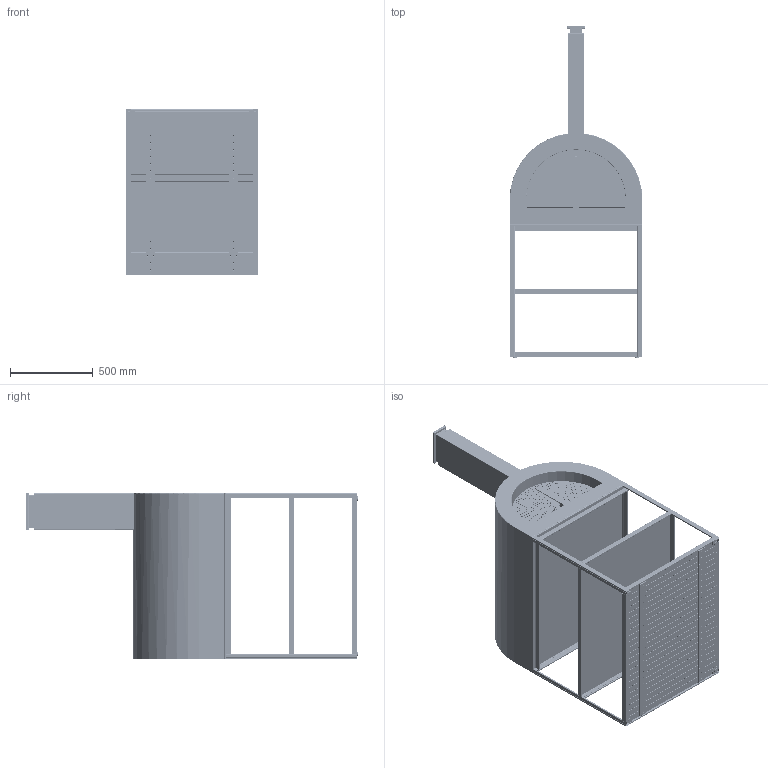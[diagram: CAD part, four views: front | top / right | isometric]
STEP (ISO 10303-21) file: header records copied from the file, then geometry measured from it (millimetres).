
FILE_DESCRIPTION(/* description */ (''),/* implementation_level */ '2;1');
FILE_NAME(/* name */ 'C:\Vault_WF\Designs\# ARKITEKT FILER\Pizza Owen\Pizza Oven SS.stp',/* time_stamp */ '2022-10-26T11:15:36+02:00',/* author */ ('TorbjörnMalm'),/* organization */ (''),/* preprocessor_version */ 'ST-DEVELOPER v18.1',/* originating_system */ 'Autodesk Inventor 2021',/* authorisation */ '');
FILE_SCHEMA (('CONFIG_CONTROL_DESIGN'));
Length unit declared in the file: millimetre
Products named in the file (48): Pizza Oven; Pizza Oven_1; 100287; 101398; 101397; Frame 1623658007388; Skeleton 1623658007389; CSN EN 10305-5 - 30 x 10 x 1,25  - 790; CSN EN 10305-5 - 30 x 10 x 1,25  - 790_1; CSN EN 10305-5 - 30 x 10 x 1,25  - 740; CSN EN 10305-5 - 30 x 10 x 1,25  - 740_1; CSN EN 10305-5 - 30 x 10 x 1,25  - 790_2; CSN EN 10305-5 - 30 x 10 x 1,25  - 740_2; CSN EN 10305-5 - 30 x 10 x 1,25  - 740_3; CSN EN 10305-5 - 30 x 10 x 1,25  - 790_3; CSN EN 10305-5 - 30 x 10 x 1,25  - 1000; CSN EN 10305-5 - 30 x 10 x 1,25  - 800; CSN EN 10305-5 - 30 x 10 x 1,25  - 1000_1; CSN EN 10305-5 - 30 x 10 x 1,25  - 800_1; CSN EN 10305-5 - 20 x 10 x 1,25  - 790; CSN EN 10305-5 - 30 x 10 x 1,25  - 940; CSN EN 10305-5 - 30 x 10 x 1,25  - 940_1; CSN EN 10305-5 - 20 x 10 x 1,25  - 790_1; CSN EN 10305-5 - 20 x 10 x 1,25  - 790_2; CSN EN 10305-5 - 30 x 10 x 1,25  - 940_2; CSN EN 10305-5 - 30 x 10 x 1,25  - 940_3; CSN EN 10305-5 - 20 x 10 x 1,25  - 790_3; CSN EN 10305-5 - 30 x 10 x 1,25  - 940_4; CSN EN 10305-5 - 30 x 10 x 1,25  - 780; CSN EN 10305-5 - 30 x 10 x 1,25  - 940_5; CSN EN 10305-5 - 30 x 10 x 1,25  - 780_1; 101206; 100131; 101256; 100420; 100422; 100422_1; 100422_2; 100297; 101212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
Assembly tree (75 placements, depth 5):
  Pizza Oven
    Pizza Oven_1
    100287  x4
    101398
      101397
        Frame 1623658007388
          Skeleton 1623658007389
          CSN EN 10305-5 - 30 x 10 x 1,25  - 790
          CSN EN 10305-5 - 30 x 10 x 1,25  - 790_1
          CSN EN 10305-5 - 30 x 10 x 1,25  - 740
          CSN EN 10305-5 - 30 x 10 x 1,25  - 740_1
          CSN EN 10305-5 - 30 x 10 x 1,25  - 790_2
          CSN EN 10305-5 - 30 x 10 x 1,25  - 740_2
          CSN EN 10305-5 - 30 x 10 x 1,25  - 740_3
          CSN EN 10305-5 - 30 x 10 x 1,25  - 790_3
          CSN EN 10305-5 - 30 x 10 x 1,25  - 1000
          CSN EN 10305-5 - 30 x 10 x 1,25  - 800
          CSN EN 10305-5 - 30 x 10 x 1,25  - 1000_1
          CSN EN 10305-5 - 30 x 10 x 1,25  - 800_1
          CSN EN 10305-5 - 20 x 10 x 1,25  - 790
          CSN EN 10305-5 - 30 x 10 x 1,25  - 940
          CSN EN 10305-5 - 30 x 10 x 1,25  - 940_1
          CSN EN 10305-5 - 20 x 10 x 1,25  - 790_1
          CSN EN 10305-5 - 20 x 10 x 1,25  - 790_2
          CSN EN 10305-5 - 30 x 10 x 1,25  - 940_2
          CSN EN 10305-5 - 30 x 10 x 1,25  - 940_3
          CSN EN 10305-5 - 20 x 10 x 1,25  - 790_3
          CSN EN 10305-5 - 30 x 10 x 1,25  - 940_4
          CSN EN 10305-5 - 30 x 10 x 1,25  - 780
          CSN EN 10305-5 - 30 x 10 x 1,25  - 940_5
          CSN EN 10305-5 - 30 x 10 x 1,25  - 780_1
      101206  x2
      100131  x4
      101256
    100420
      100422  x21
      100422_1
      100422_2
      100297  x2
    101212
      101208
      101207
      101211
      101174
        101236
          101182
          101183
      101210
Bounding box: 800 x 2000 x 1003 mm (x, y, z)
Volume: 388761111.2 mm3; surface area: 11833377.3 mm2
Topology: 67 solids, 67 shells, 4457 faces, 12514 edges, 8202 vertices
Faces by surface type: cylinder 3687, plane 680, cone 52, sphere 32, torus 4, bspline 2
Full cylindrical faces by diameter (mm): 3 x3203, 3.5 x58, 4.2 x8, 6.2 x10, 6.647 x4, 8 x4, 15 x10, 20 x4, 28 x4
Entity records: 152114 total; most frequent: DIRECTION 27133, CARTESIAN_POINT 23751, ORIENTED_EDGE 23342, EDGE_CURVE 11671, AXIS2_PLACEMENT_3D 11302, EDGE_LOOP 10623, VERTEX_POINT 7710, CIRCLE 7044
